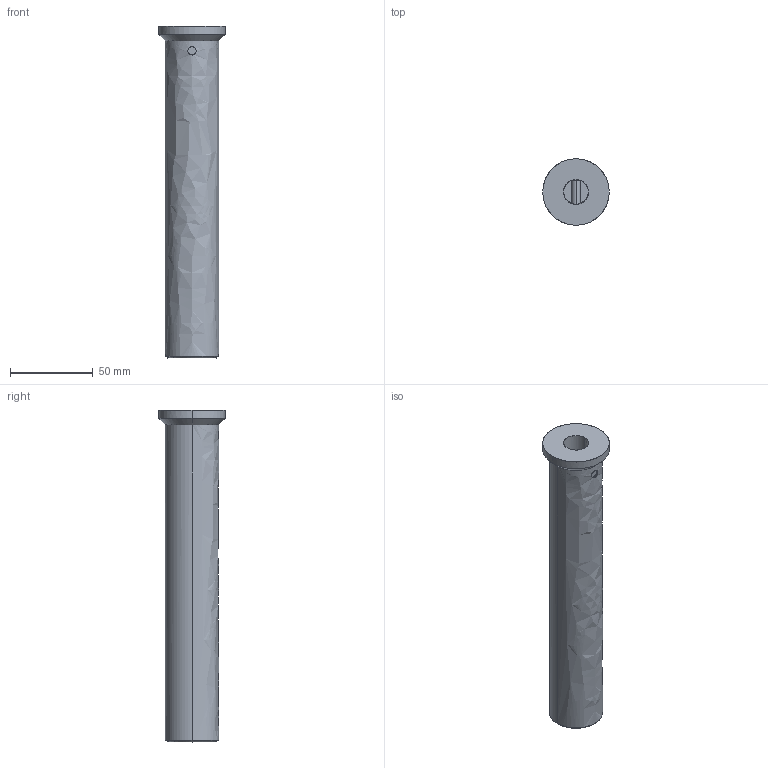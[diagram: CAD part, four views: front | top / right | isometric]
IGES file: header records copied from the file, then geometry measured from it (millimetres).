
Global section: file name: E:\UnigraphicsGraphicData\MISUMI_PRESS-PARTS\IGES\3d_lcup32-200_01348_r00.igs; native system: NX V5.0; preprocessor: UGS NX IGES V5.0; author: MISUMI; date: 20110105.161156; units: millimetre
Bounding box: 40 x 40 x 200 mm (x, y, z)
Surface area: 24364.8 mm2 (no closed solid volume)
Topology: 0 solids, 0 shells, 19 faces, 148 edges, 148 vertices
Faces by surface type: bspline 19
